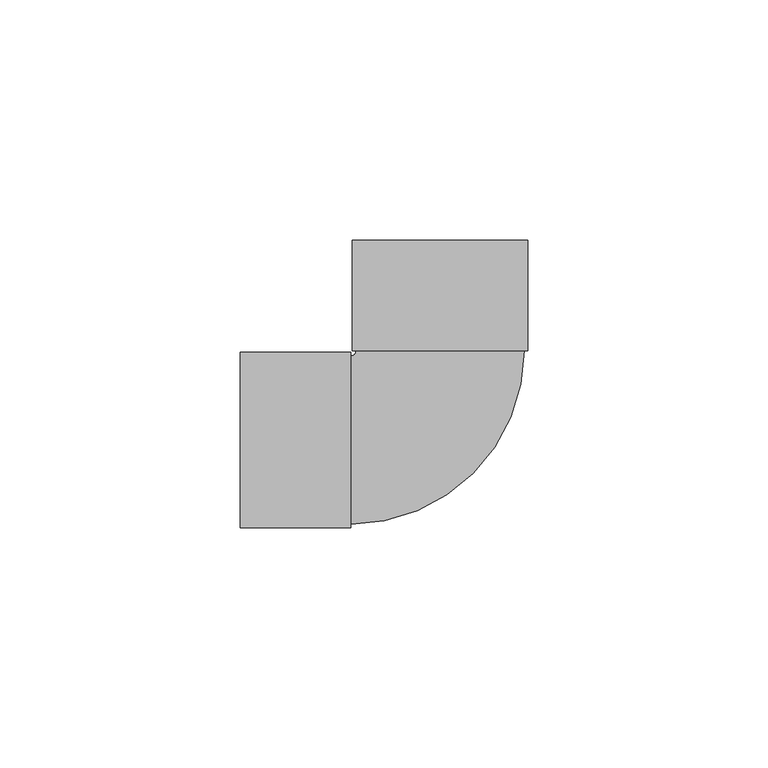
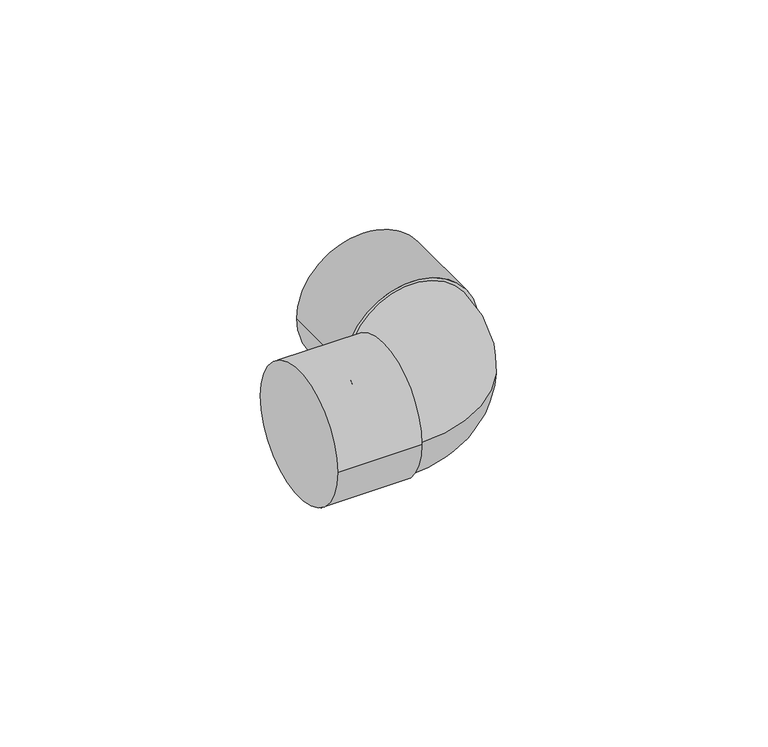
"""IFC4 building model written with IfcOpenShell, lengths in millimetres: pipe fitting geometry, Cotovelo - Soldado - CU : Padrão."""

from ifc_helpers import new_model, si_unit, point, frame, origin, place, context, project, spatial, circle_curve, ellipse_curve, trimmed, source, transform, mapped, element, save
from ifc_brep_helpers import plane_surface, cylinder_surface, revolved_surface, advanced_brep


def pipe_fitting_6f49f867(model_context):
    return source(origin(), model_context, "Body", "AdvancedBrep", [
        advanced_brep(
        [(-17.5002114, 18.5998011, 0.0), (-18.6, 17.5, 0.0), (-18.6, -17.5, 0.0), (17.4997886, 18.6001989, 0.0), (-41.6, -18.28, 0.0), (-41.6, 18.28, 0.0), (-18.6, -18.28, 0.0), (-18.6, 18.28, 0.0), (-18.2804729, 41.5997922, 0.0), (18.2795271, 41.6002078, 0.0), (-18.2802114, 18.5997922, 0.0), (18.2797886, 18.6002078, 0.0)],
        [
            (0, 1, circle_curve(frame((-18.6, 18.5997886, 0.0), z_axis=(0.0, 0.0, -1.0), x_axis=(0.0, -1.0, 0.0)), 1.0997886)),
            (1, 2, circle_curve(frame((-18.6, 0.0, 0.0), z_axis=(1.0, 0.0, 0.0), x_axis=(0.0, 1.0, 0.0)), 17.5)),
            (2, 3, circle_curve(frame((-18.6, 18.5997886, 0.0), z_axis=(0.0, 0.0, 1.0), x_axis=(0.0, -1.0, 0.0)), 36.0997886)),
            (3, 0, circle_curve(frame((-0.0002114, 18.6, 0.0), z_axis=(1.1367754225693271e-05, -0.9999999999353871, 0.0), x_axis=(-0.9999999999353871, -1.1367754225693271e-05, 0.0)), 17.5)),
            (0, 3, circle_curve(frame((-0.0002114, 18.6, 0.0), z_axis=(1.1367754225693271e-05, -0.9999999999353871, 0.0), x_axis=(-0.9999999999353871, -1.1367754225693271e-05, 0.0)), 17.5)),
            (2, 1, circle_curve(frame((-18.6, 0.0, 0.0), z_axis=(1.0, 0.0, 0.0), x_axis=(0.0, 1.0, 0.0)), 17.5)),
            (4, 5, circle_curve(frame((-41.6, 0.0, 0.0), z_axis=(-1.0, 0.0, 0.0), x_axis=(0.0, 1.0, 0.0)), 18.28)),
            (5, 4, circle_curve(frame((-41.6, 0.0, 0.0), z_axis=(-1.0, 0.0, 0.0), x_axis=(0.0, 1.0, 0.0)), 18.28)),
            (6, 7, circle_curve(frame((-18.6, 0.0, 0.0), z_axis=(1.0, 0.0, 0.0), x_axis=(0.0, 1.0, 0.0)), 18.28)),
            (7, 6, circle_curve(frame((-18.6, 0.0, 0.0), z_axis=(1.0, 0.0, 0.0), x_axis=(0.0, 1.0, 0.0)), 18.28)),
            (4, 6),
            (7, 5),
            (8, 9, circle_curve(frame((-0.0004729, 41.6, 0.0), z_axis=(-1.1367754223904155e-05, 0.9999999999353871, 0.0), x_axis=(0.9999999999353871, 1.1367754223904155e-05, 0.0)), 18.28)),
            (9, 8, circle_curve(frame((-0.0004729, 41.6, 0.0), z_axis=(-1.1367754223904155e-05, 0.9999999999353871, 0.0), x_axis=(0.9999999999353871, 1.1367754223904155e-05, 0.0)), 18.28)),
            (10, 11, circle_curve(frame((-0.0002114, 18.6, 0.0), z_axis=(1.1367754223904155e-05, -0.9999999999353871, 0.0), x_axis=(0.9999999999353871, 1.1367754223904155e-05, 0.0)), 18.28)),
            (11, 10, circle_curve(frame((-0.0002114, 18.6, 0.0), z_axis=(1.1367754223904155e-05, -0.9999999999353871, 0.0), x_axis=(0.9999999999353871, 1.1367754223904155e-05, 0.0)), 18.28)),
            (8, 10),
            (11, 9),
        ],
        [
            revolved_surface(trimmed(ellipse_curve(frame((-18.6, 0.0, 0.0), z_axis=(-1.0, 0.0, 0.0), x_axis=(0.0, 1.0, 0.0)), 17.5, 17.5), [point((-18.6, -17.5, 0.0))], [point((-18.6, 17.5, 0.0))], True, "CARTESIAN"), (-18.6, 18.5997886, 0.0), (0.0, 0.0, 1.0)),
            revolved_surface(trimmed(ellipse_curve(frame((-18.6, 0.0, 0.0), z_axis=(-1.0, 0.0, 0.0), x_axis=(0.0, 1.0, 0.0)), 17.5, 17.5), [point((-18.6, 17.5, 0.0))], [point((-18.6, -17.5, 0.0))], True, "CARTESIAN"), (-18.6, 18.5997886, 0.0), (0.0, 0.0, 1.0)),
            plane_surface(frame((-41.6, 0.0, 0.0), z_axis=(-1.0, 0.0, 0.0), x_axis=(0.0, 0.0, 1.0))),
            plane_surface(frame((-18.6, 0.0, 0.0), z_axis=(1.0, 0.0, 0.0), x_axis=(0.0, 0.0, 1.0))),
            cylinder_surface(frame((-41.6, 0.0, 0.0), z_axis=(-1.0, 0.0, 0.0), x_axis=(0.0, 1.0, 0.0)), 18.28),
            plane_surface(frame((-0.0004729, 41.6, 0.0), z_axis=(-1.1367754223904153e-05, 0.9999999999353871, 0.0), x_axis=(0.0, 0.0, 1.0))),
            plane_surface(frame((-0.0002114, 18.6, 0.0), z_axis=(1.1367754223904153e-05, -0.9999999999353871, 0.0), x_axis=(0.0, 0.0, 1.0))),
            cylinder_surface(frame((-0.0004729, 41.6, 0.0), z_axis=(-1.1367754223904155e-05, 0.9999999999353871, 0.0), x_axis=(0.9999999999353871, 1.1367754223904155e-05, 0.0)), 18.28),
        ],
        [
            (0, [[1, 2, 3, 4]]),
            (1, [[-1, 5, -3, 6]]),
            (2, [[7, 8]]),
            (3, [[9, 10], [-2, -6]]),
            (4, [[-7, 11, -10, 12]]),
            (4, [[-8, -12, -9, -11]]),
            (5, [[13, 14]]),
            (6, [[15, 16], [-4, -5]]),
            (7, [[-13, 17, -16, 18]]),
            (7, [[-14, -18, -15, -17]]),
        ],
    ),
    ])


if __name__ == "__main__":
    model = new_model("IFC4")
    model_context = context("Model", 3, world=origin())
    ifc_project = project(units=[si_unit("LENGTHUNIT", "METRE", prefix="MILLI")], contexts=[model_context])
    site = spatial("IfcSite", under=ifc_project)
    building = spatial("IfcBuilding", under=site)
    placement = place(None, origin())
    pipe_fitting_shape = pipe_fitting_6f49f867(model_context)
    element("IfcPipeFitting", 1, ObjectType="Cotovelo - Soldado - CU : Padrão", at=placement, inside=building, context=model_context, shape_type="MappedRepresentation", body=[
        mapped(pipe_fitting_shape, transform((0.0, 0.0, 0.0), x_axis=(1.0, 0.0, 0.0), y_axis=(0.0, 1.0, 0.0), z_axis=(0.0, 0.0, 1.0))),
    ])
    save(model, "model.ifc")
